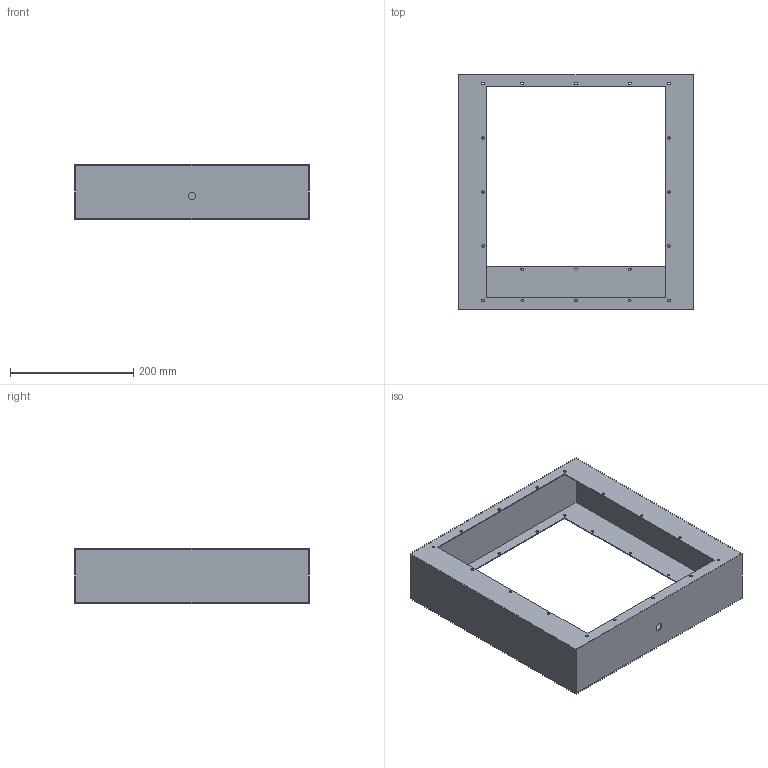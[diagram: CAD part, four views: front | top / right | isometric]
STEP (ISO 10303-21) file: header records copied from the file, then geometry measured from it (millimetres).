
FILE_DESCRIPTION(/* description */ ('Alibre Inc.'),/* implementation_level */ '2;1');
FILE_NAME(/* name */ 'export-844EA582-D6B2-4954-982D-62FA22988FC2',/* time_stamp */ '2021-11-19T16:37:55-05:00',/* author */ (''),/* organization */ (''),/* preprocessor_version */ 'ST-DEVELOPER v17',/* originating_system */ 'Alibre',/* authorisation */ '');
FILE_SCHEMA (('AUTOMOTIVE_DESIGN'));
Length unit declared in the file: inch
Products named in the file (1): DA-531C
Bounding box: 381 x 381 x 88.9 mm (x, y, z)
Volume: 345863.9 mm3; surface area: 473824.4 mm2
Topology: 1 solids, 1 shells, 53 faces, 179 edges, 130 vertices
Faces by surface type: cylinder 33, plane 20
Full cylindrical faces by diameter (mm): 4.166 x32, 12.294 x1
Entity records: 1675 total; most frequent: DIRECTION 261, CARTESIAN_POINT 260, ORIENTED_EDGE 228, EDGE_LOOP 156, FACE_BOUND 156, AXIS2_PLACEMENT_3D 116, EDGE_CURVE 114, VERTEX_POINT 98
